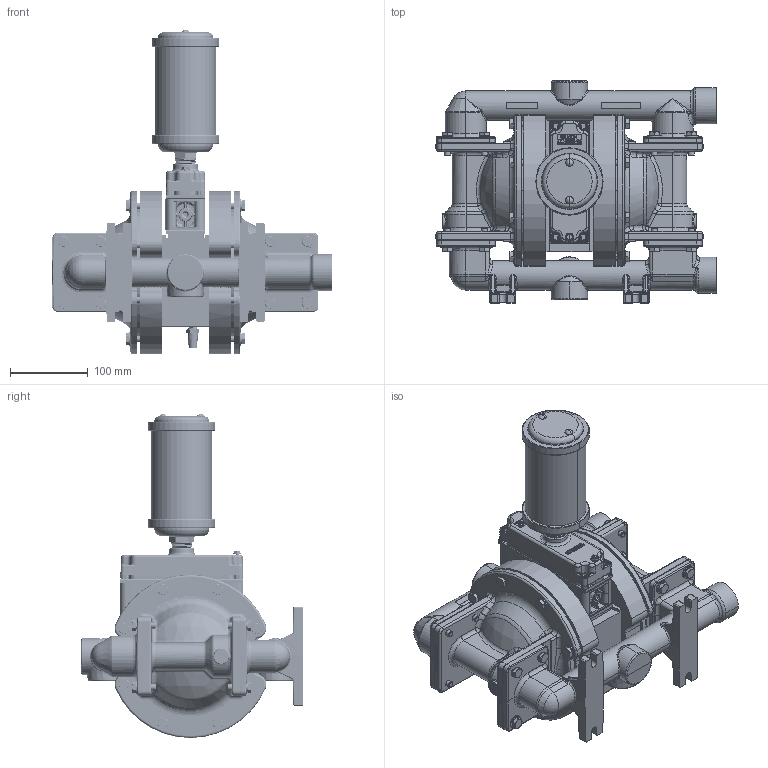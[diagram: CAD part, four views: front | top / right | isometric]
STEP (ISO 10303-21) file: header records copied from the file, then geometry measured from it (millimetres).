
FILE_DESCRIPTION (( 'STEP AP203' ), '1' );
FILE_NAME ('PS220_Metal_Threaded.STEP', '2022-05-30T11:18:27', ( '' ), ( '' ), 'SwSTEP 2.0', 'SolidWorks 2019', '' );
FILE_SCHEMA (( 'CONFIG_CONTROL_DESIGN' ));
Length unit declared in the file: inch
Products named in the file (1): PS220_Metal_Threaded
Bounding box: 360.62 x 285.5 x 416.87 mm (x, y, z)
Volume: 8205052.8 mm3; surface area: 588324.8 mm2
Topology: 1 solids, 1 shells, 6610 faces, 17169 edges, 10878 vertices
Faces by surface type: plane 4190, cylinder 1048, cone 463, bspline 462, torus 315, sphere 132
Entity records: 269800 total; most frequent: CARTESIAN_POINT 112571, ORIENTED_EDGE 34338, DIRECTION 30179, EDGE_CURVE 17169, VECTOR 11923, LINE 11923, VERTEX_POINT 10878, AXIS2_PLACEMENT_3D 9128
